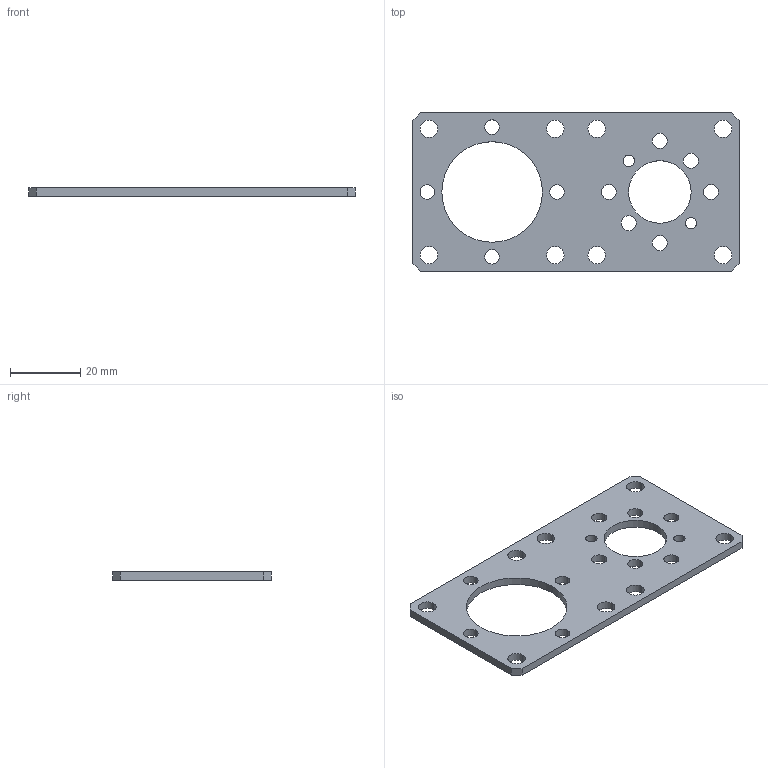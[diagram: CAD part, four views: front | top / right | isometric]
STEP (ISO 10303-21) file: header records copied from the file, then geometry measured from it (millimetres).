
FILE_DESCRIPTION (( 'STEP AP214' ), '1' );
FILE_NAME ('217-6043-001-20171201.STEP', '2017-12-01T16:16:00', ( '' ), ( '' ), 'SwSTEP 2.0', 'SolidWorks 2017', '' );
FILE_SCHEMA (( 'AUTOMOTIVE_DESIGN' ));
Length unit declared in the file: inch
Products named in the file (1): 217-6043-001-20171201
Bounding box: 92.68 x 45.02 x 2.29 mm (x, y, z)
Volume: 6768.6 mm3; surface area: 7509.3 mm2
Topology: 1 solids, 1 shells, 54 faces, 156 edges, 104 vertices
Faces by surface type: cylinder 44, plane 10
Entity records: 1956 total; most frequent: DIRECTION 354, CARTESIAN_POINT 315, ORIENTED_EDGE 312, EDGE_CURVE 156, AXIS2_PLACEMENT_3D 143, VERTEX_POINT 104, EDGE_LOOP 98, CIRCLE 88
